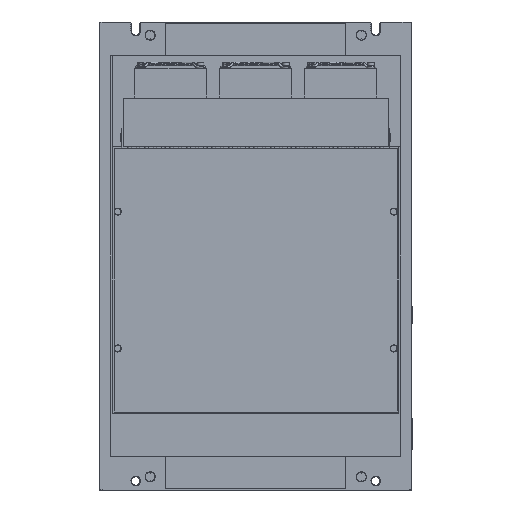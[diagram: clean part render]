
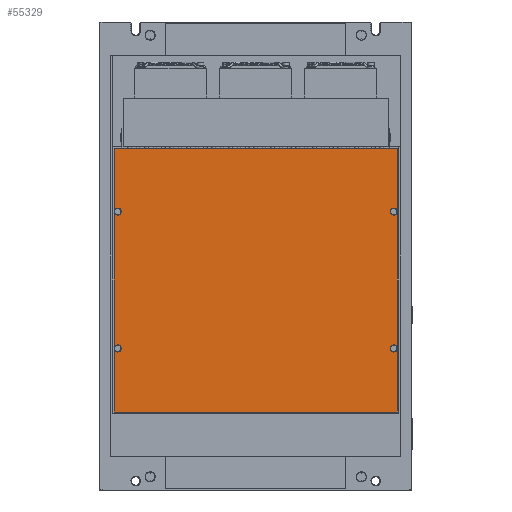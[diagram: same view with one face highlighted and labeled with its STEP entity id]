
A CAD part, front view. The second image highlights one B-rep face of the part: STEP entity #55329.
In plain terms, the highlighted planar face has unit normal (0, -1, 0).
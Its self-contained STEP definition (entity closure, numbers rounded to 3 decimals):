
#5060=CARTESIAN_POINT('',(234.,-70.5,-168.));
#5061=DIRECTION('',(0.,-1.,0.));
#5062=DIRECTION('',(-1.,0.,0.));
#5063=AXIS2_PLACEMENT_3D('',#5060,#5061,#5062);
#5065=DIRECTION('',(0.,0.,1.));
#5066=VECTOR('',#5065,53.);
#5067=CARTESIAN_POINT('',(237.,-70.5,-221.));
#5068=LINE('',#5067,#5066);
#5069=DIRECTION('',(1.,0.,0.));
#5070=VECTOR('',#5069,236.);
#5071=CARTESIAN_POINT('',(1.,-70.5,-221.));
#5072=LINE('',#5071,#5070);
#5073=DIRECTION('',(0.,0.,-1.));
#5074=VECTOR('',#5073,53.);
#5075=CARTESIAN_POINT('',(1.,-70.5,-168.));
#5076=LINE('',#5075,#5074);
#5077=CARTESIAN_POINT('',(4.,-70.5,-168.));
#5078=DIRECTION('',(0.,-1.,0.));
#5079=DIRECTION('',(-1.,0.,0.));
#5080=AXIS2_PLACEMENT_3D('',#5077,#5078,#5079);
#5082=CARTESIAN_POINT('',(4.,-70.5,-168.));
#5083=DIRECTION('',(0.,-1.,0.));
#5084=DIRECTION('',(1.,0.,0.));
#5085=AXIS2_PLACEMENT_3D('',#5082,#5083,#5084);
#5087=DIRECTION('',(0.,0.,-1.));
#5088=VECTOR('',#5087,114.);
#5089=CARTESIAN_POINT('',(1.,-70.5,-54.));
#5090=LINE('',#5089,#5088);
#5091=CARTESIAN_POINT('',(4.,-70.5,-54.));
#5092=DIRECTION('',(0.,-1.,0.));
#5093=DIRECTION('',(-1.,0.,0.));
#5094=AXIS2_PLACEMENT_3D('',#5091,#5092,#5093);
#5096=CARTESIAN_POINT('',(4.,-70.5,-54.));
#5097=DIRECTION('',(0.,-1.,0.));
#5098=DIRECTION('',(1.,0.,0.));
#5099=AXIS2_PLACEMENT_3D('',#5096,#5097,#5098);
#5101=DIRECTION('',(0.,0.,-1.));
#5102=VECTOR('',#5101,53.);
#5103=CARTESIAN_POINT('',(1.,-70.5,-1.));
#5104=LINE('',#5103,#5102);
#5105=DIRECTION('',(-1.,0.,0.));
#5106=VECTOR('',#5105,236.);
#5107=CARTESIAN_POINT('',(237.,-70.5,-1.));
#5108=LINE('',#5107,#5106);
#5109=DIRECTION('',(0.,0.,1.));
#5110=VECTOR('',#5109,53.);
#5111=CARTESIAN_POINT('',(237.,-70.5,-54.));
#5112=LINE('',#5111,#5110);
#5113=CARTESIAN_POINT('',(234.,-70.5,-54.));
#5114=DIRECTION('',(0.,-1.,0.));
#5115=DIRECTION('',(1.,0.,0.));
#5116=AXIS2_PLACEMENT_3D('',#5113,#5114,#5115);
#5118=CARTESIAN_POINT('',(234.,-70.5,-54.));
#5119=DIRECTION('',(0.,-1.,0.));
#5120=DIRECTION('',(-1.,0.,0.));
#5121=AXIS2_PLACEMENT_3D('',#5118,#5119,#5120);
#5123=DIRECTION('',(0.,0.,1.));
#5124=VECTOR('',#5123,114.);
#5125=CARTESIAN_POINT('',(237.,-70.5,-168.));
#5126=LINE('',#5125,#5124);
#5127=CARTESIAN_POINT('',(234.,-70.5,-168.));
#5128=DIRECTION('',(0.,-1.,0.));
#5129=DIRECTION('',(1.,0.,0.));
#5130=AXIS2_PLACEMENT_3D('',#5127,#5128,#5129);
#42148=CARTESIAN_POINT('',(237.,-70.5,-1.));
#42149=CARTESIAN_POINT('',(1.,-70.5,-1.));
#42150=VERTEX_POINT('',#42148);
#42151=VERTEX_POINT('',#42149);
#42152=CARTESIAN_POINT('',(1.,-70.5,-221.));
#42153=CARTESIAN_POINT('',(237.,-70.5,-221.));
#42154=VERTEX_POINT('',#42152);
#42155=VERTEX_POINT('',#42153);
#42436=CARTESIAN_POINT('',(231.,-70.5,-168.));
#42437=CARTESIAN_POINT('',(237.,-70.5,-168.));
#42438=VERTEX_POINT('',#42436);
#42439=VERTEX_POINT('',#42437);
#42440=CARTESIAN_POINT('',(231.,-70.5,-54.));
#42441=CARTESIAN_POINT('',(237.,-70.5,-54.));
#42442=VERTEX_POINT('',#42440);
#42443=VERTEX_POINT('',#42441);
#42444=CARTESIAN_POINT('',(1.,-70.5,-168.));
#42445=CARTESIAN_POINT('',(7.,-70.5,-168.));
#42446=VERTEX_POINT('',#42444);
#42447=VERTEX_POINT('',#42445);
#42448=CARTESIAN_POINT('',(1.,-70.5,-54.));
#42449=CARTESIAN_POINT('',(7.,-70.5,-54.));
#42450=VERTEX_POINT('',#42448);
#42451=VERTEX_POINT('',#42449);
#55295=CARTESIAN_POINT('',(0.,-70.5,0.));
#55296=DIRECTION('',(0.,-1.,0.));
#55297=DIRECTION('',(-1.,0.,0.));
#55298=AXIS2_PLACEMENT_3D('',#55295,#55296,#55297);
#55299=PLANE('',#55298);
#55301=ORIENTED_EDGE('',*,*,#55300,.T.);
#55303=ORIENTED_EDGE('',*,*,#55302,.F.);
#55304=ORIENTED_EDGE('',*,*,#55131,.F.);
#55305=ORIENTED_EDGE('',*,*,#55280,.F.);
#55307=ORIENTED_EDGE('',*,*,#55306,.T.);
#55309=ORIENTED_EDGE('',*,*,#55308,.T.);
#55310=ORIENTED_EDGE('',*,*,#55278,.F.);
#55312=ORIENTED_EDGE('',*,*,#55311,.T.);
#55314=ORIENTED_EDGE('',*,*,#55313,.T.);
#55315=ORIENTED_EDGE('',*,*,#55276,.F.);
#55316=ORIENTED_EDGE('',*,*,#55041,.F.);
#55318=ORIENTED_EDGE('',*,*,#55317,.F.);
#55320=ORIENTED_EDGE('',*,*,#55319,.T.);
#55322=ORIENTED_EDGE('',*,*,#55321,.T.);
#55324=ORIENTED_EDGE('',*,*,#55323,.F.);
#55326=ORIENTED_EDGE('',*,*,#55325,.T.);
#55327=EDGE_LOOP('',(#55301,#55303,#55304,#55305,#55307,#55309,#55310,#55312,
#55314,#55315,#55316,#55318,#55320,#55322,#55324,#55326));
#55328=FACE_OUTER_BOUND('',#55327,.F.);
#5064=CIRCLE('',#5063,3.);
#5081=CIRCLE('',#5080,3.);
#5086=CIRCLE('',#5085,3.);
#5095=CIRCLE('',#5094,3.);
#5100=CIRCLE('',#5099,3.);
#5117=CIRCLE('',#5116,3.);
#5122=CIRCLE('',#5121,3.);
#5131=CIRCLE('',#5130,3.);
#55041=EDGE_CURVE('',#42150,#42151,#5108,.T.);
#55131=EDGE_CURVE('',#42154,#42155,#5072,.T.);
#55276=EDGE_CURVE('',#42151,#42450,#5104,.T.);
#55278=EDGE_CURVE('',#42450,#42446,#5090,.T.);
#55280=EDGE_CURVE('',#42446,#42154,#5076,.T.);
#55300=EDGE_CURVE('',#42438,#42439,#5064,.T.);
#55302=EDGE_CURVE('',#42155,#42439,#5068,.T.);
#55306=EDGE_CURVE('',#42446,#42447,#5081,.T.);
#55308=EDGE_CURVE('',#42447,#42446,#5086,.T.);
#55311=EDGE_CURVE('',#42450,#42451,#5095,.T.);
#55313=EDGE_CURVE('',#42451,#42450,#5100,.T.);
#55317=EDGE_CURVE('',#42443,#42150,#5112,.T.);
#55319=EDGE_CURVE('',#42443,#42442,#5117,.T.);
#55321=EDGE_CURVE('',#42442,#42443,#5122,.T.);
#55323=EDGE_CURVE('',#42439,#42443,#5126,.T.);
#55325=EDGE_CURVE('',#42439,#42438,#5131,.T.);
#55329=ADVANCED_FACE('',(#55328),#55299,.T.);
